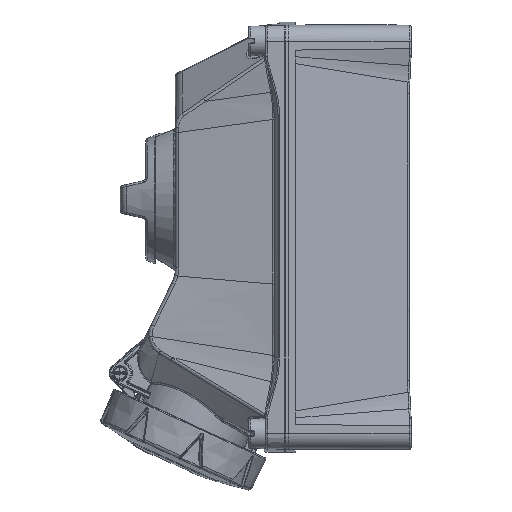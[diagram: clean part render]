
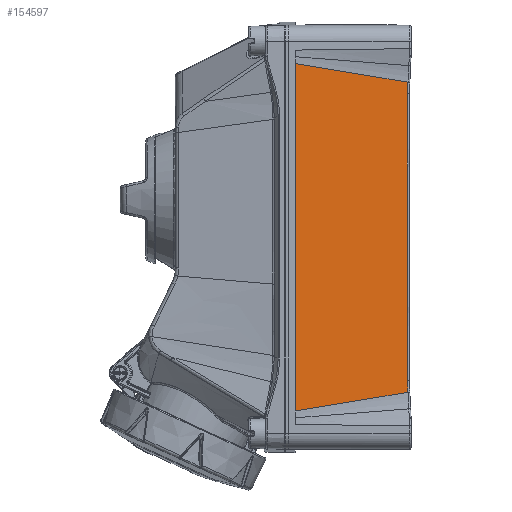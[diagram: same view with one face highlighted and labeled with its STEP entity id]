
A CAD part, left-side view. The second image highlights one B-rep face of the part: STEP entity #154597.
In plain terms, the highlighted free-form (B-spline) face has degree [5, 5] with [6, 6] control points.
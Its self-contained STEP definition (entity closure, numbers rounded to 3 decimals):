
#38186=CARTESIAN_POINT('',(-54.921,0.638,
-82.079));
#38187=CARTESIAN_POINT('',(-55.229,5.784,
-82.813));
#38188=CARTESIAN_POINT('',(-55.815,15.586,
-84.24));
#38189=CARTESIAN_POINT('',(-56.603,28.769,
-86.267));
#38190=CARTESIAN_POINT('',(-57.308,40.559,
-88.217));
#38191=CARTESIAN_POINT('',(-57.933,51.017,
-90.124));
#38192=CARTESIAN_POINT('',(-58.301,57.168,
-91.399));
#38193=CARTESIAN_POINT('',(-58.472,60.031,
-92.044));
#38195=DIRECTION('',(0.,0.,1.));
#38196=VECTOR('',#38195,184.088);
#38197=CARTESIAN_POINT('',(-58.472,60.031,
-92.044));
#38198=LINE('6701',#38197,#38196);
#38199=CARTESIAN_POINT('',(-58.472,60.031,
92.044));
#38200=CARTESIAN_POINT('',(-58.24,56.145,
91.169));
#38201=CARTESIAN_POINT('',(-57.743,47.836,
89.496));
#38202=CARTESIAN_POINT('',(-56.904,33.805,
87.066));
#38203=CARTESIAN_POINT('',(-55.97,18.186,
84.621));
#38204=CARTESIAN_POINT('',(-55.282,6.668,
82.939));
#38205=CARTESIAN_POINT('',(-54.921,0.638,
82.079));
#38207=CARTESIAN_POINT('',(-54.921,0.638,
82.079));
#38208=CARTESIAN_POINT('',(-54.923,0.671,
81.406));
#38209=CARTESIAN_POINT('',(-54.927,0.739,
80.061));
#38210=CARTESIAN_POINT('',(-54.933,0.839,
78.043));
#38211=CARTESIAN_POINT('',(-54.937,0.907,
76.698));
#38212=CARTESIAN_POINT('',(-54.939,0.94,
76.025));
#38214=DIRECTION('',(0.,0.,1.));
#38215=VECTOR('',#38214,152.05);
#38216=CARTESIAN_POINT('',(-54.939,0.94,
-76.025));
#38217=LINE('6760',#38216,#38215);
#38218=CARTESIAN_POINT('',(-54.939,0.94,
-76.025));
#38219=CARTESIAN_POINT('',(-54.937,0.907,
-76.698));
#38220=CARTESIAN_POINT('',(-54.933,0.839,
-78.043));
#38221=CARTESIAN_POINT('',(-54.927,0.739,
-80.061));
#38222=CARTESIAN_POINT('',(-54.923,0.671,
-81.406));
#38223=CARTESIAN_POINT('',(-54.921,0.638,
-82.079));
#65689=VERTEX_POINT('',#38186);
#65690=VERTEX_POINT('',#38193);
#65693=VERTEX_POINT('',#38199);
#65694=VERTEX_POINT('',#38205);
#66501=VERTEX_POINT('',#38212);
#66507=CARTESIAN_POINT('',(-54.939,0.94,
-76.025));
#66508=VERTEX_POINT('',#66507);
#154547=CARTESIAN_POINT('',(-54.883,0.,-86.5));
#154548=CARTESIAN_POINT('',(-55.606,12.1,-87.98));
#154549=CARTESIAN_POINT('',(-56.33,24.2,-89.46));
#154550=CARTESIAN_POINT('',(-57.053,36.3,-90.94));
#154551=CARTESIAN_POINT('',(-57.777,48.4,-92.42));
#154552=CARTESIAN_POINT('',(-58.5,60.5,-93.9));
#154553=CARTESIAN_POINT('',(-54.883,0.,-51.9));
#154554=CARTESIAN_POINT('',(-55.606,12.1,-52.788));
#154555=CARTESIAN_POINT('',(-56.33,24.2,-53.676));
#154556=CARTESIAN_POINT('',(-57.053,36.3,-54.564));
#154557=CARTESIAN_POINT('',(-57.777,48.4,-55.452));
#154558=CARTESIAN_POINT('',(-58.5,60.5,-56.34));
#154559=CARTESIAN_POINT('',(-54.883,0.,-17.3));
#154560=CARTESIAN_POINT('',(-55.606,12.1,-17.596));
#154561=CARTESIAN_POINT('',(-56.33,24.2,-17.892));
#154562=CARTESIAN_POINT('',(-57.053,36.3,-18.188));
#154563=CARTESIAN_POINT('',(-57.777,48.4,-18.484));
#154564=CARTESIAN_POINT('',(-58.5,60.5,-18.78));
#154565=CARTESIAN_POINT('',(-54.883,0.,17.3));
#154566=CARTESIAN_POINT('',(-55.606,12.1,17.596));
#154567=CARTESIAN_POINT('',(-56.33,24.2,17.892));
#154568=CARTESIAN_POINT('',(-57.053,36.3,18.188));
#154569=CARTESIAN_POINT('',(-57.777,48.4,18.484));
#154570=CARTESIAN_POINT('',(-58.5,60.5,18.78));
#154571=CARTESIAN_POINT('',(-54.883,0.,51.9));
#154572=CARTESIAN_POINT('',(-55.606,12.1,52.788));
#154573=CARTESIAN_POINT('',(-56.33,24.2,53.676));
#154574=CARTESIAN_POINT('',(-57.053,36.3,54.564));
#154575=CARTESIAN_POINT('',(-57.777,48.4,55.452));
#154576=CARTESIAN_POINT('',(-58.5,60.5,56.34));
#154577=CARTESIAN_POINT('',(-54.883,0.,86.5));
#154578=CARTESIAN_POINT('',(-55.606,12.1,87.98));
#154579=CARTESIAN_POINT('',(-56.33,24.2,89.46));
#154580=CARTESIAN_POINT('',(-57.053,36.3,90.94));
#154581=CARTESIAN_POINT('',(-57.777,48.4,92.42));
#154582=CARTESIAN_POINT('',(-58.5,60.5,93.9));
#154583=B_SPLINE_SURFACE_WITH_KNOTS('48',5,5,((#154547,#154548,#154549,#154550,
#154551,#154552),(#154553,#154554,#154555,#154556,#154557,#154558),(#154559,
#154560,#154561,#154562,#154563,#154564),(#154565,#154566,#154567,#154568,
#154569,#154570),(#154571,#154572,#154573,#154574,#154575,#154576),(#154577,
#154578,#154579,#154580,#154581,#154582)),.UNSPECIFIED.,.F.,.F.,.F.,(6,6),(6,6),
(0.,1.),(0.,1.),.UNSPECIFIED.);
#154584=ORIENTED_EDGE('5741',*,*,#154530,.T.);
#154586=ORIENTED_EDGE('6701',*,*,#154585,.T.);
#154588=ORIENTED_EDGE('5743',*,*,#154587,.T.);
#154590=ORIENTED_EDGE('6754',*,*,#154589,.T.);
#154592=ORIENTED_EDGE('6760',*,*,#154591,.F.);
#154594=ORIENTED_EDGE('6767',*,*,#154593,.T.);
#154595=EDGE_LOOP('48',(#154584,#154586,#154588,#154590,#154592,#154594));
#154596=FACE_OUTER_BOUND('48',#154595,.F.);
#38194=B_SPLINE_CURVE_WITH_KNOTS('5741',3,(#38186,#38187,#38188,#38189,#38190,
#38191,#38192,#38193),.UNSPECIFIED.,.F.,.F.,(4,1,1,1,1,4),(0.,0.2,0.4,
0.6,0.8,1.),.UNSPECIFIED.);
#38206=B_SPLINE_CURVE_WITH_KNOTS('5743',3,(#38199,#38200,#38201,#38202,#38203,
#38204,#38205),.UNSPECIFIED.,.F.,.F.,(4,1,1,1,4),(0.,0.25,0.5,0.75,
1.),.UNSPECIFIED.);
#38213=B_SPLINE_CURVE_WITH_KNOTS('6754',3,(#38207,#38208,#38209,#38210,#38211,
#38212),.UNSPECIFIED.,.F.,.F.,(4,1,1,4),(0.,0.333,
0.667,1.),.UNSPECIFIED.);
#38224=B_SPLINE_CURVE_WITH_KNOTS('6767',3,(#38218,#38219,#38220,#38221,#38222,
#38223),.UNSPECIFIED.,.F.,.F.,(4,1,1,4),(0.,0.333,
0.667,1.),.UNSPECIFIED.);
#154530=EDGE_CURVE('5741',#65689,#65690,#38194,.T.);
#154585=EDGE_CURVE('6701',#65690,#65693,#38198,.T.);
#154587=EDGE_CURVE('5743',#65693,#65694,#38206,.T.);
#154589=EDGE_CURVE('6754',#65694,#66501,#38213,.T.);
#154591=EDGE_CURVE('6760',#66508,#66501,#38217,.T.);
#154593=EDGE_CURVE('6767',#66508,#65689,#38224,.T.);
#154597=ADVANCED_FACE('48',(#154596),#154583,.T.);
